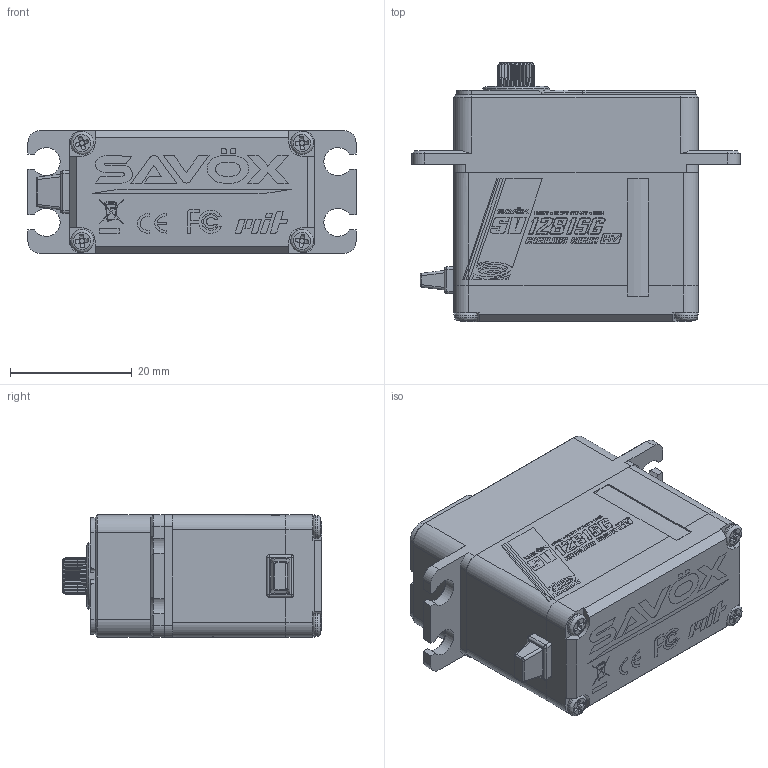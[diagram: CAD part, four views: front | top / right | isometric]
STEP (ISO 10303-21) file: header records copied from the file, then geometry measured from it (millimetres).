
FILE_DESCRIPTION (( 'STEP AP214' ), '1' );
FILE_NAME ('SV-1281SG_3D??+??.STEP', '2025-04-16T10:03:45', ( '' ), ( '' ), 'SwSTEP 2.0', 'SolidWorks 2024', '' );
FILE_SCHEMA (( 'AUTOMOTIVE_DESIGN' ));
Length unit declared in the file: millimetre
Products named in the file (1): SV-1281SG_3D零件+齒輪
Bounding box: 54 x 42.7 x 20.2 mm (x, y, z)
Volume: 30995.6 mm3; surface area: 6916.9 mm2
Topology: 1 solids, 1 shells, 683 faces, 4689 edges, 4171 vertices
Faces by surface type: plane 387, cylinder 155, cone 96, bspline 45
Full cylindrical faces by diameter (mm): 2.5 x1, 3.8 x4, 6.1 x1, 11 x1
Entity records: 58262 total; most frequent: CARTESIAN_POINT 17047, ORIENTED_EDGE 9308, EDGE_CURVE 4654, DIRECTION 4463, VERTEX_POINT 4161, VECTOR 2367, LINE 2367, B_SPLINE_CURVE_WITH_KNOTS 1835
